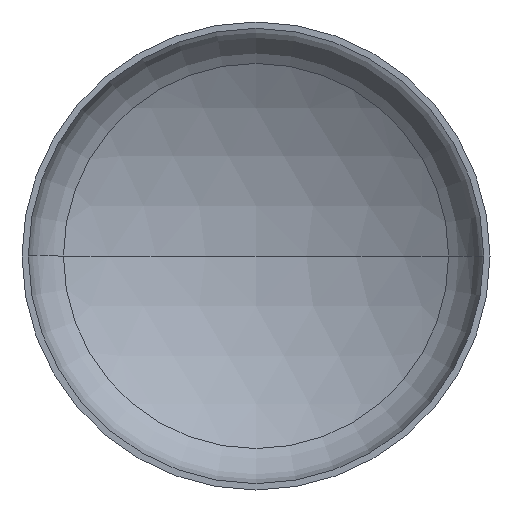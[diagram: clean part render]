
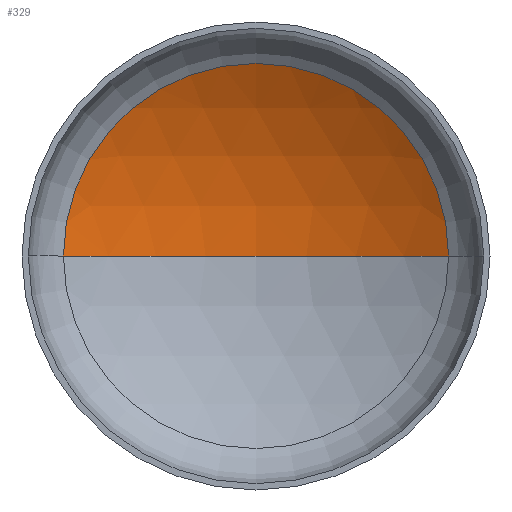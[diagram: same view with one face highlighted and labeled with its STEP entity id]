
A CAD part, front view. The second image highlights one B-rep face of the part: STEP entity #329.
In plain terms, the highlighted spherical face has radius 2880 mm.
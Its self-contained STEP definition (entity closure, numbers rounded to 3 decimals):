
#17 = AXIS2_PLACEMENT_3D ( 'NONE', #274, #297, #257 ) ;
#24 = VERTEX_POINT ( 'NONE', #148 ) ;
#34 = AXIS2_PLACEMENT_3D ( 'NONE', #317, #161, #338 ) ;
#41 = AXIS2_PLACEMENT_3D ( 'NONE', #311, #153, #246 ) ;
#42 = ORIENTED_EDGE ( 'NONE', *, *, #211, .F. ) ;
#45 = AXIS2_PLACEMENT_3D ( 'NONE', #154, #314, #59 ) ;
#59 = DIRECTION ( 'NONE',  ( 1., 0., 0. ) ) ;
#78 = VERTEX_POINT ( 'NONE', #215 ) ;
#82 = EDGE_LOOP ( 'NONE', ( #42, #143, #135 ) ) ;
#109 = SPHERICAL_SURFACE ( 'NONE', #17, 2880. ) ;
#111 = VERTEX_POINT ( 'NONE', #186 ) ;
#135 = ORIENTED_EDGE ( 'NONE', *, *, #174, .T. ) ;
#143 = ORIENTED_EDGE ( 'NONE', *, *, #187, .T. ) ;
#148 = CARTESIAN_POINT ( 'NONE',  ( 1481.497, 625.938, 0. ) ) ;
#153 = DIRECTION ( 'NONE',  ( 0., 0., -1. ) ) ;
#154 = CARTESIAN_POINT ( 'NONE',  ( 0., 625.938, 0. ) ) ;
#161 = DIRECTION ( 'NONE',  ( 0., 0., 1. ) ) ;
#174 = EDGE_CURVE ( 'NONE', #24, #78, #400, .T. ) ;
#186 = CARTESIAN_POINT ( 'NONE',  ( 0., 1036.207, 0. ) ) ;
#187 = EDGE_CURVE ( 'NONE', #111, #24, #230, .T. ) ;
#211 = EDGE_CURVE ( 'NONE', #111, #78, #346, .T. ) ;
#215 = CARTESIAN_POINT ( 'NONE',  ( -1481.497, 625.938, 0. ) ) ;
#230 = CIRCLE ( 'NONE', #41, 2880. ) ;
#246 = DIRECTION ( 'NONE',  ( -1., 0., 0. ) ) ;
#257 = DIRECTION ( 'NONE',  ( -1., 0., 0. ) ) ;
#274 = CARTESIAN_POINT ( 'NONE',  ( 0., -1843.793, 0. ) ) ;
#297 = DIRECTION ( 'NONE',  ( 0., 0., -1. ) ) ;
#311 = CARTESIAN_POINT ( 'NONE',  ( 0., -1843.793, 0. ) ) ;
#314 = DIRECTION ( 'NONE',  ( 0., -1., 0. ) ) ;
#317 = CARTESIAN_POINT ( 'NONE',  ( 0., -1843.793, 0. ) ) ;
#329 = ADVANCED_FACE ( 'NONE', ( #385 ), #109, .F. ) ;
#338 = DIRECTION ( 'NONE',  ( 1., 0., 0. ) ) ;
#346 = CIRCLE ( 'NONE', #34, 2880. ) ;
#385 = FACE_OUTER_BOUND ( 'NONE', #82, .T. ) ;
#400 = CIRCLE ( 'NONE', #45, 1481.497 ) ;
